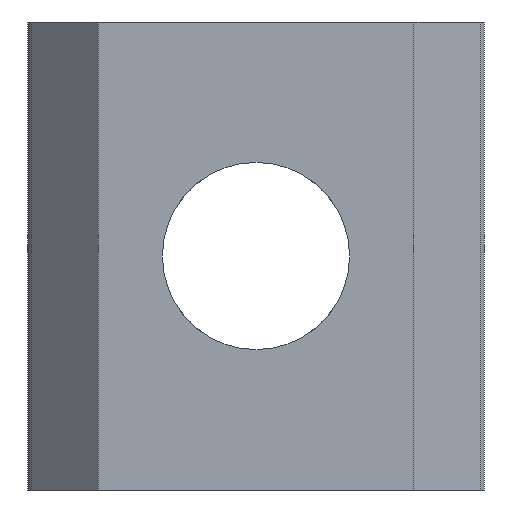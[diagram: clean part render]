
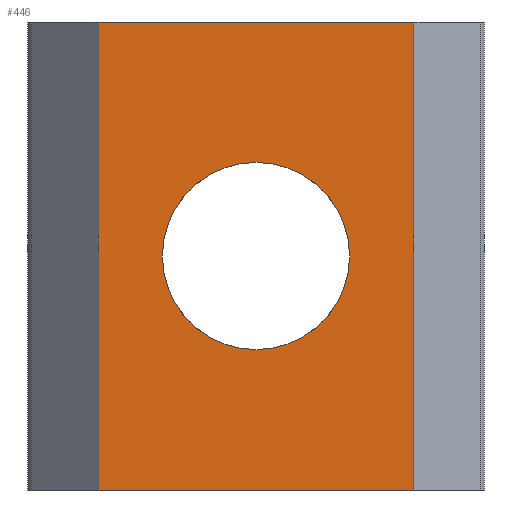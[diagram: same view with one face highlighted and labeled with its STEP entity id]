
A CAD part, front view. The second image highlights one B-rep face of the part: STEP entity #446.
In plain terms, the highlighted planar face has unit normal (0, -1, 0).
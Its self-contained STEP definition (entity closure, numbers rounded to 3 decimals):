
#50 = EDGE_LOOP ( 'NONE', ( #781, #574, #583, #960 ) ) ;
#64 = ORIENTED_EDGE ( 'NONE', *, *, #659, .F. ) ;
#68 = EDGE_CURVE ( 'NONE', #196, #701, #536, .T. ) ;
#196 = VERTEX_POINT ( 'NONE', #639 ) ;
#228 = DIRECTION ( 'NONE',  ( 1., 0., 0. ) ) ;
#251 = DIRECTION ( 'NONE',  ( 0., -1., 0. ) ) ;
#260 = CARTESIAN_POINT ( 'NONE',  ( 4., -10.6, 10. ) ) ;
#274 = CIRCLE ( 'NONE', #892, 4. ) ;
#314 = VERTEX_POINT ( 'NONE', #550 ) ;
#341 = CIRCLE ( 'NONE', #971, 4. ) ;
#363 = CARTESIAN_POINT ( 'NONE',  ( -6.75, -10.6, 20. ) ) ;
#369 = DIRECTION ( 'NONE',  ( 0., -1., 0. ) ) ;
#375 = VECTOR ( 'NONE', #601, 1000. ) ;
#446 = ADVANCED_FACE ( 'NONE', ( #1106, #806 ), #587, .F. ) ;
#480 = ORIENTED_EDGE ( 'NONE', *, *, #598, .F. ) ;
#516 = VERTEX_POINT ( 'NONE', #260 ) ;
#535 = LINE ( 'NONE', #778, #681 ) ;
#536 = LINE ( 'NONE', #703, #1371 ) ;
#550 = CARTESIAN_POINT ( 'NONE',  ( 6.75, -10.6, 0. ) ) ;
#563 = LINE ( 'NONE', #1139, #1399 ) ;
#566 = EDGE_CURVE ( 'NONE', #196, #894, #1214, .T. ) ;
#574 = ORIENTED_EDGE ( 'NONE', *, *, #658, .F. ) ;
#583 = ORIENTED_EDGE ( 'NONE', *, *, #68, .F. ) ;
#585 = DIRECTION ( 'NONE',  ( 0., 0., -1. ) ) ;
#587 = PLANE ( 'NONE',  #694 ) ;
#594 = EDGE_LOOP ( 'NONE', ( #64, #480 ) ) ;
#598 = EDGE_CURVE ( 'NONE', #788, #516, #341, .T. ) ;
#601 = DIRECTION ( 'NONE',  ( 0., 0., -1. ) ) ;
#623 = DIRECTION ( 'NONE',  ( 1., 0., 0. ) ) ;
#639 = CARTESIAN_POINT ( 'NONE',  ( -6.75, -10.6, 20. ) ) ;
#658 = EDGE_CURVE ( 'NONE', #701, #314, #563, .T. ) ;
#659 = EDGE_CURVE ( 'NONE', #516, #788, #274, .T. ) ;
#681 = VECTOR ( 'NONE', #228, 1000. ) ;
#694 = AXIS2_PLACEMENT_3D ( 'NONE', #363, #1346, #695 ) ;
#695 = DIRECTION ( 'NONE',  ( -1., 0., 0. ) ) ;
#701 = VERTEX_POINT ( 'NONE', #912 ) ;
#703 = CARTESIAN_POINT ( 'NONE',  ( -6.75, -10.6, 20. ) ) ;
#778 = CARTESIAN_POINT ( 'NONE',  ( -6.75, -10.6, 0. ) ) ;
#781 = ORIENTED_EDGE ( 'NONE', *, *, #808, .T. ) ;
#788 = VERTEX_POINT ( 'NONE', #1431 ) ;
#806 = FACE_OUTER_BOUND ( 'NONE', #50, .T. ) ;
#808 = EDGE_CURVE ( 'NONE', #894, #314, #535, .T. ) ;
#892 = AXIS2_PLACEMENT_3D ( 'NONE', #1030, #251, #918 ) ;
#894 = VERTEX_POINT ( 'NONE', #994 ) ;
#912 = CARTESIAN_POINT ( 'NONE',  ( 6.75, -10.6, 20. ) ) ;
#918 = DIRECTION ( 'NONE',  ( 1., 0., 0. ) ) ;
#960 = ORIENTED_EDGE ( 'NONE', *, *, #566, .T. ) ;
#971 = AXIS2_PLACEMENT_3D ( 'NONE', #1145, #369, #1039 ) ;
#994 = CARTESIAN_POINT ( 'NONE',  ( -6.75, -10.6, 0. ) ) ;
#1030 = CARTESIAN_POINT ( 'NONE',  ( 0., -10.6, 10. ) ) ;
#1039 = DIRECTION ( 'NONE',  ( 1., 0., 0. ) ) ;
#1106 = FACE_BOUND ( 'NONE', #594, .T. ) ;
#1139 = CARTESIAN_POINT ( 'NONE',  ( 6.75, -10.6, 20. ) ) ;
#1145 = CARTESIAN_POINT ( 'NONE',  ( 0., -10.6, 10. ) ) ;
#1214 = LINE ( 'NONE', #1362, #375 ) ;
#1346 = DIRECTION ( 'NONE',  ( 0., 1., 0. ) ) ;
#1362 = CARTESIAN_POINT ( 'NONE',  ( -6.75, -10.6, 20. ) ) ;
#1371 = VECTOR ( 'NONE', #623, 1000. ) ;
#1399 = VECTOR ( 'NONE', #585, 1000. ) ;
#1431 = CARTESIAN_POINT ( 'NONE',  ( -4., -10.6, 10. ) ) ;
